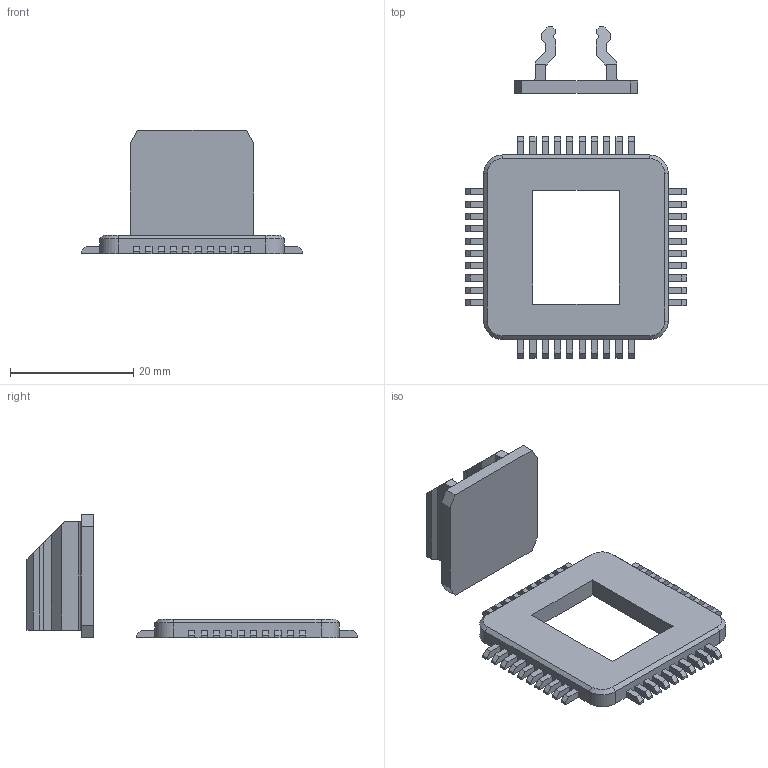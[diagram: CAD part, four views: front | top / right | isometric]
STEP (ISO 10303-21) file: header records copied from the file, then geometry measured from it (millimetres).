
FILE_DESCRIPTION (( 'STEP AP214' ), '1' );
FILE_NAME ('Robot Hand Part 4_CPU.STEP', '2024-06-21T14:12:34', ( '' ), ( '' ), 'SwSTEP 2.0', 'SolidWorks 2021', '' );
FILE_SCHEMA (( 'AUTOMOTIVE_DESIGN' ));
Length unit declared in the file: millimetre
Products named in the file (3): Robot Chip; Robot CPU Holder; Robot Hand Part 4_CPU
Assembly tree (2 placements, depth 2):
  Robot Hand Part 4_CPU
    Robot Chip
    Robot CPU Holder
Bounding box: 36 x 53.95 x 20 mm (x, y, z)
Volume: 3301.9 mm3; surface area: 5072.6 mm2
Topology: 6 solids, 6 shells, 440 faces, 1270 edges, 844 vertices
Faces by surface type: plane 422, cylinder 14, cone 4
Entity records: 15208 total; most frequent: CARTESIAN_POINT 2577, ORIENTED_EDGE 2540, DIRECTION 2180, EDGE_CURVE 1270, VECTOR 1238, LINE 1238, VERTEX_POINT 844, AXIS2_PLACEMENT_3D 471
